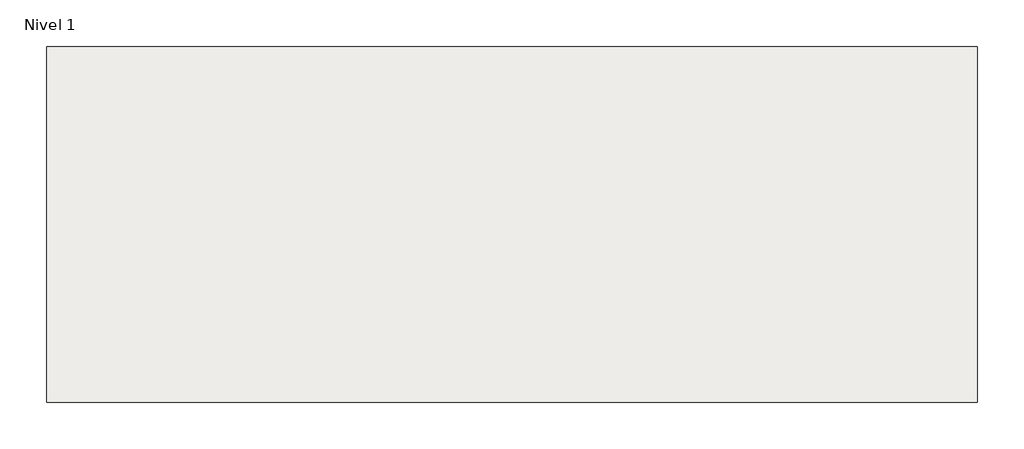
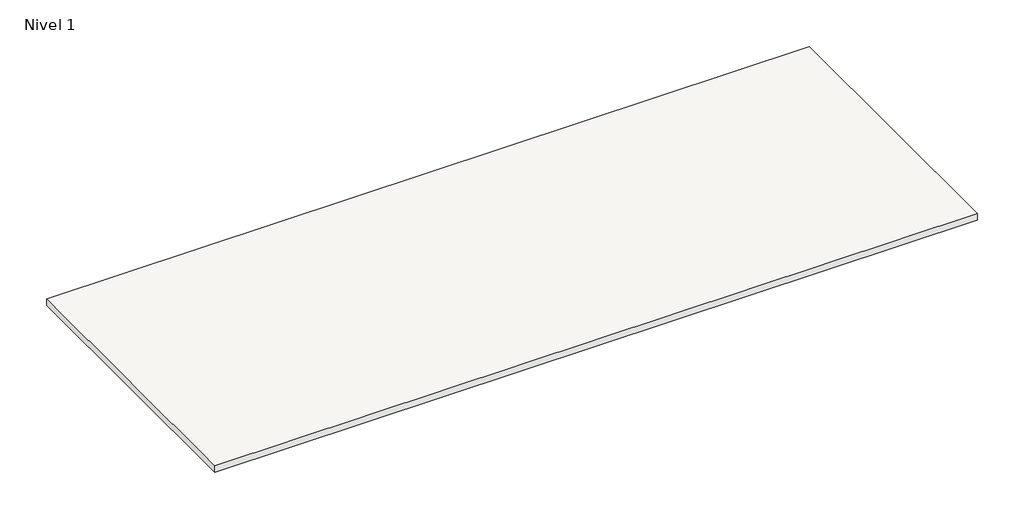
# One storey, incomplete: 1 slab.
"""IFC4 building model written with IfcOpenShell, lengths in millimetres."""

from ifc_helpers import new_model, si_unit, frame, origin, place, context, project, spatial, polyline, outline, extrude, element, save

model = new_model("IFC4")

# Units and contexts
model_context = context("Model", 3, world=origin())
ifc_project = project(units=[si_unit("LENGTHUNIT", "METRE", prefix="MILLI")], contexts=[model_context])

# Site, building, storey
site = spatial("IfcSite", under=ifc_project)
building = spatial("IfcBuilding", under=site)
storey = spatial("IfcBuildingStorey", under=building, Name="Nivel 1", Elevation=0.0)

# Slab
placement = place(None, origin())
element("IfcSlab", 1, ObjectType="Por defecto - 30 cm", at=placement, inside=storey, context=model_context, shape_type="SweptSolid", body=[
    extrude(outline(polyline([(21876.2140339, 6346.7898089), (21876.2140339, -6453.2101911), (-11623.7859661, -6453.2101911), (-11623.7859661, 6346.7898089), (21876.2140339, 6346.7898089)])), frame((0.0, 0.0, -300.0), z_axis=(0.0, 0.0, 1.0), x_axis=(1.0, 0.0, 0.0)), (0.0, 0.0, 1.0), 300.0),
])

save(model, "model.ifc")
